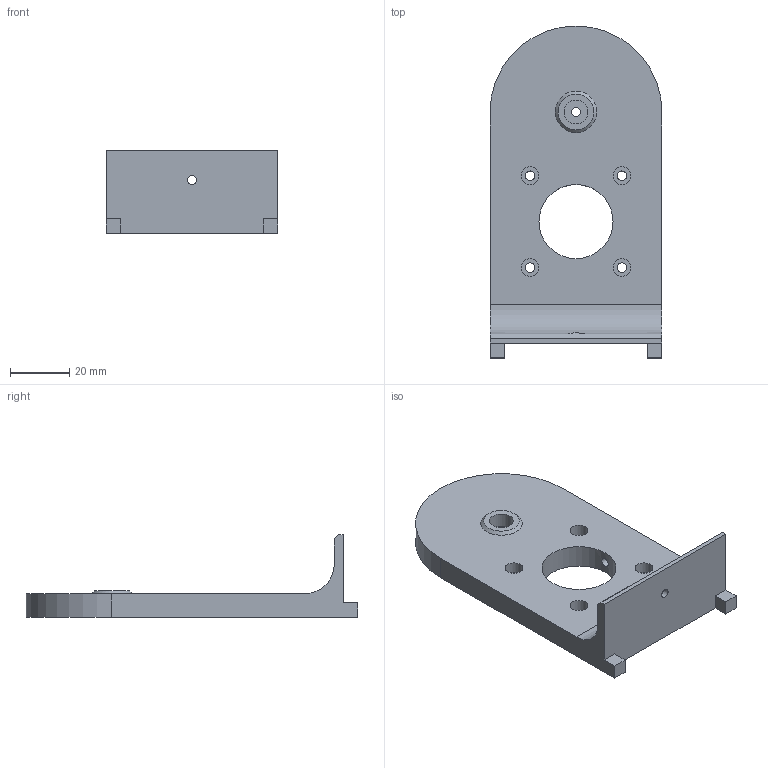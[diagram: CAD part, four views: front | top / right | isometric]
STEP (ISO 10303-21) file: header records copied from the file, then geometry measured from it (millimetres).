
FILE_DESCRIPTION(/* description */ (''),/* implementation_level */ '2;1');
FILE_NAME(/* name */ 'D:\Documents\Projects\Pan Tilt Mount\CAD STEP files\Gear Side Support.stp',/* time_stamp */ '2020-06-08T18:40:21+01:00',/* author */ ('isaac879'),/* organization */ (''),/* preprocessor_version */ 'ST-DEVELOPER v18',/* originating_system */ 'Autodesk Inventor 2020',/* authorisation */ '');
FILE_SCHEMA (('AUTOMOTIVE_DESIGN { 1 0 10303 214 3 1 1 }'));
Length unit declared in the file: millimetre
Products named in the file (1): Gear Side Support
Bounding box: 58 x 112 x 28 mm (x, y, z)
Volume: 46875.7 mm3; surface area: 16879.2 mm2
Topology: 1 solids, 1 shells, 37 faces, 103 edges, 71 vertices
Faces by surface type: plane 20, cylinder 15, bspline 1, cone 1
Full cylindrical faces by diameter (mm): 3 x3, 3.2 x4, 6 x4, 8 x1, 25 x1
Entity records: 1387 total; most frequent: CARTESIAN_POINT 332, DIRECTION 212, ORIENTED_EDGE 202, EDGE_CURVE 101, AXIS2_PLACEMENT_3D 79, VERTEX_POINT 71, EDGE_LOOP 58, LINE 54
